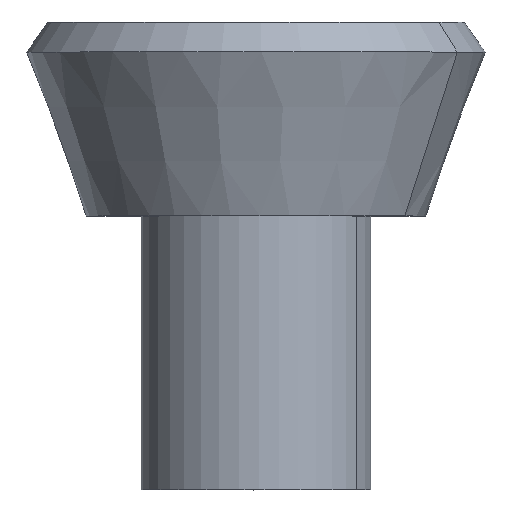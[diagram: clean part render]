
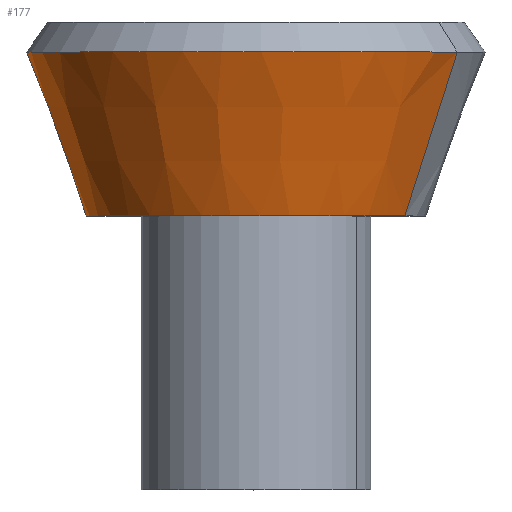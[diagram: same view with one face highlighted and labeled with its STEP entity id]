
A CAD part, top view. The second image highlights one B-rep face of the part: STEP entity #177.
In plain terms, the highlighted conical face has half-angle 20 degrees and reference radius 93 mm.
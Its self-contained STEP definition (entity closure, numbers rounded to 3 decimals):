
#114=CARTESIAN_POINT('Axis2P3D Location',(0.,0.,0.)) ;
#118=CARTESIAN_POINT('Vertex',(81.615,0.,44.587)) ;
#120=CARTESIAN_POINT('Vertex',(-81.615,0.,-44.587)) ;
#147=CARTESIAN_POINT('Axis2P3D Location',(0.,0.,0.)) ;
#152=CARTESIAN_POINT('Line Origine',(95.957,44.901,52.422)) ;
#156=CARTESIAN_POINT('Vertex',(110.299,89.802,60.257)) ;
#159=CARTESIAN_POINT('Axis2P3D Location',(0.,89.802,0.)) ;
#163=CARTESIAN_POINT('Vertex',(-110.299,89.802,-60.257)) ;
#166=CARTESIAN_POINT('Line Origine',(-95.957,44.901,-52.422)) ;
#115=DIRECTION('Axis2P3D Direction',(0.,-1.,0.)) ;
#148=DIRECTION('Axis2P3D Direction',(-0.,1.,-0.)) ;
#149=DIRECTION('Axis2P3D XDirection',(0.878,0.,0.479)) ;
#153=DIRECTION('Vector Direction',(0.3,0.94,0.164)) ;
#160=DIRECTION('Axis2P3D Direction',(0.,1.,-0.)) ;
#167=DIRECTION('Vector Direction',(-0.3,0.94,-0.164)) ;
#116=AXIS2_PLACEMENT_3D('Circle Axis2P3D',#114,#115,$) ;
#150=AXIS2_PLACEMENT_3D('Cone Axis2P3D',#147,#148,#149) ;
#161=AXIS2_PLACEMENT_3D('Circle Axis2P3D',#159,#160,$) ;
#172=ORIENTED_EDGE('',*,*,#122,.F.) ;
#173=ORIENTED_EDGE('',*,*,#158,.T.) ;
#174=ORIENTED_EDGE('',*,*,#165,.T.) ;
#175=ORIENTED_EDGE('',*,*,#170,.F.) ;
#154=VECTOR('Line Direction',#153,1.) ;
#168=VECTOR('Line Direction',#167,1.) ;
#177=ADVANCED_FACE('PartBody',(#176),#151,.T.) ;
#117=CIRCLE('generated circle',#116,93.) ;
#162=CIRCLE('generated circle',#161,125.685) ;
#151=CONICAL_SURFACE('Cone',#150,93.,0.349) ;
#122=EDGE_CURVE('',#119,#121,#117,.T.) ;
#158=EDGE_CURVE('',#119,#157,#155,.T.) ;
#165=EDGE_CURVE('',#157,#164,#162,.F.) ;
#170=EDGE_CURVE('',#121,#164,#169,.T.) ;
#171=EDGE_LOOP('',(#172,#173,#174,#175)) ;
#176=FACE_OUTER_BOUND('',#171,.T.) ;
#155=LINE('Line',#152,#154) ;
#169=LINE('Line',#166,#168) ;
#119=VERTEX_POINT('',#118) ;
#121=VERTEX_POINT('',#120) ;
#157=VERTEX_POINT('',#156) ;
#164=VERTEX_POINT('',#163) ;
